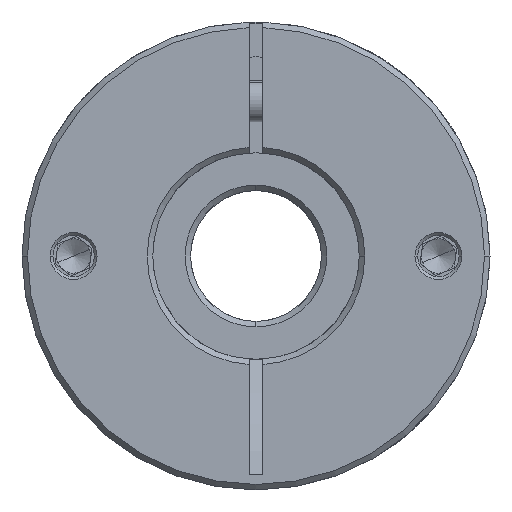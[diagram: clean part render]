
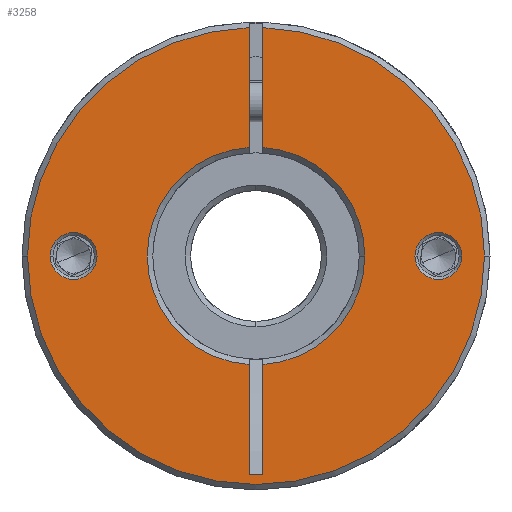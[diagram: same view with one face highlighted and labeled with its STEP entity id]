
A CAD part, front view. The second image highlights one B-rep face of the part: STEP entity #3258.
In plain terms, the highlighted planar face has unit normal (0, -1, 0).
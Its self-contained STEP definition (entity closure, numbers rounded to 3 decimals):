
#16 = AXIS2_PLACEMENT_3D ( 'NONE', #1711, #11973, #7759 ) ;
#41 = ORIENTED_EDGE ( 'NONE', *, *, #5862, .T. ) ;
#83 = EDGE_CURVE ( 'NONE', #6338, #11310, #12786, .T. ) ;
#114 = AXIS2_PLACEMENT_3D ( 'NONE', #4484, #5880, #3691 ) ;
#185 = CIRCLE ( 'NONE', #2933, 3.4 ) ;
#213 = CARTESIAN_POINT ( 'NONE',  ( -2.735, -47.045, 68. ) ) ;
#278 = EDGE_LOOP ( 'NONE', ( #11483, #12806 ) ) ;
#340 = ORIENTED_EDGE ( 'NONE', *, *, #8898, .T. ) ;
#352 = DIRECTION ( 'NONE',  ( 0., 0., -1. ) ) ;
#494 = CARTESIAN_POINT ( 'NONE',  ( -35.935, -47.045, 68. ) ) ;
#611 = CIRCLE ( 'NONE', #8713, 3.4 ) ;
#612 = AXIS2_PLACEMENT_3D ( 'NONE', #1942, #1901, #13297 ) ;
#804 = EDGE_CURVE ( 'NONE', #12910, #4711, #8012, .T. ) ;
#1147 = CARTESIAN_POINT ( 'NONE',  ( -2.735, -47.045, 68. ) ) ;
#1181 = CARTESIAN_POINT ( 'NONE',  ( 27.165, -47.045, 68. ) ) ;
#1374 = DIRECTION ( 'NONE',  ( 1., 0., 0. ) ) ;
#1536 = DIRECTION ( 'NONE',  ( 0., 0., -1. ) ) ;
#1584 = CARTESIAN_POINT ( 'NONE',  ( -1.735, -47.045, 68. ) ) ;
#1619 = EDGE_CURVE ( 'NONE', #9731, #6338, #4406, .T. ) ;
#1656 = VERTEX_POINT ( 'NONE', #12190 ) ;
#1697 = CIRCLE ( 'NONE', #4105, 3.4 ) ;
#1711 = CARTESIAN_POINT ( 'NONE',  ( -2.735, -47.045, 68. ) ) ;
#1736 = EDGE_CURVE ( 'NONE', #1656, #6916, #12700, .T. ) ;
#1893 = CARTESIAN_POINT ( 'NONE',  ( -1.735, -47.045, 52.232 ) ) ;
#1901 = DIRECTION ( 'NONE',  ( 0., -1., 0. ) ) ;
#1942 = CARTESIAN_POINT ( 'NONE',  ( -2.735, -47.045, 68. ) ) ;
#1943 = ORIENTED_EDGE ( 'NONE', *, *, #7412, .T. ) ;
#2004 = DIRECTION ( 'NONE',  ( 1., 0., 0. ) ) ;
#2029 = ORIENTED_EDGE ( 'NONE', *, *, #2272, .T. ) ;
#2203 = DIRECTION ( 'NONE',  ( 1., 0., 0. ) ) ;
#2272 = EDGE_CURVE ( 'NONE', #5878, #5822, #611, .T. ) ;
#2612 = EDGE_LOOP ( 'NONE', ( #2029, #9246 ) ) ;
#2669 = VECTOR ( 'NONE', #2738, 1000. ) ;
#2738 = DIRECTION ( 'NONE',  ( -1., 0., 0. ) ) ;
#2933 = AXIS2_PLACEMENT_3D ( 'NONE', #7355, #11639, #5502 ) ;
#2996 = EDGE_CURVE ( 'NONE', #10141, #13171, #10788, .T. ) ;
#3258 = ADVANCED_FACE ( 'NONE', ( #5102, #10940, #13392 ), #13090, .T. ) ;
#3419 = CARTESIAN_POINT ( 'NONE',  ( -3.735, -47.045, 68. ) ) ;
#3461 = EDGE_CURVE ( 'NONE', #11857, #6916, #5942, .T. ) ;
#3691 = DIRECTION ( 'NONE',  ( 1., 0., 0. ) ) ;
#3995 = AXIS2_PLACEMENT_3D ( 'NONE', #13396, #8229, #2004 ) ;
#4101 = ORIENTED_EDGE ( 'NONE', *, *, #3461, .F. ) ;
#4105 = AXIS2_PLACEMENT_3D ( 'NONE', #4670, #11954, #9810 ) ;
#4406 = CIRCLE ( 'NONE', #612, 33.2 ) ;
#4484 = CARTESIAN_POINT ( 'NONE',  ( -2.735, -47.045, 68. ) ) ;
#4487 = VERTEX_POINT ( 'NONE', #7708 ) ;
#4504 = AXIS2_PLACEMENT_3D ( 'NONE', #11547, #11723, #5372 ) ;
#4670 = CARTESIAN_POINT ( 'NONE',  ( 23.765, -47.045, 68. ) ) ;
#4711 = VERTEX_POINT ( 'NONE', #7796 ) ;
#4786 = ORIENTED_EDGE ( 'NONE', *, *, #10996, .F. ) ;
#4891 = AXIS2_PLACEMENT_3D ( 'NONE', #11043, #4912, #11997 ) ;
#4912 = DIRECTION ( 'NONE',  ( 0., -1., 0. ) ) ;
#4988 = LINE ( 'NONE', #8705, #9848 ) ;
#5062 = ORIENTED_EDGE ( 'NONE', *, *, #11983, .T. ) ;
#5102 = FACE_BOUND ( 'NONE', #2612, .T. ) ;
#5372 = DIRECTION ( 'NONE',  ( 1., 0., 0. ) ) ;
#5502 = DIRECTION ( 'NONE',  ( 1., 0., 0. ) ) ;
#5551 = CIRCLE ( 'NONE', #4504, 15.8 ) ;
#5671 = VECTOR ( 'NONE', #10188, 1000. ) ;
#5677 = DIRECTION ( 'NONE',  ( 0., 1., 0. ) ) ;
#5822 = VERTEX_POINT ( 'NONE', #12458 ) ;
#5862 = EDGE_CURVE ( 'NONE', #13171, #9806, #5551, .T. ) ;
#5878 = VERTEX_POINT ( 'NONE', #1181 ) ;
#5880 = DIRECTION ( 'NONE',  ( 0., 1., 0. ) ) ;
#5911 = EDGE_CURVE ( 'NONE', #4711, #12910, #185, .T. ) ;
#5942 = LINE ( 'NONE', #3419, #9176 ) ;
#6267 = LINE ( 'NONE', #11996, #2669 ) ;
#6338 = VERTEX_POINT ( 'NONE', #11523 ) ;
#6579 = CARTESIAN_POINT ( 'NONE',  ( -1.735, -47.045, 101.185 ) ) ;
#6916 = VERTEX_POINT ( 'NONE', #12721 ) ;
#7355 = CARTESIAN_POINT ( 'NONE',  ( -29.235, -47.045, 68. ) ) ;
#7412 = EDGE_CURVE ( 'NONE', #11310, #10141, #12976, .T. ) ;
#7708 = CARTESIAN_POINT ( 'NONE',  ( -3.735, -47.045, 36.279 ) ) ;
#7759 = DIRECTION ( 'NONE',  ( 1., 0., 0. ) ) ;
#7796 = CARTESIAN_POINT ( 'NONE',  ( -32.635, -47.045, 68. ) ) ;
#7823 = CARTESIAN_POINT ( 'NONE',  ( -3.735, -47.045, 68. ) ) ;
#7838 = EDGE_CURVE ( 'NONE', #9806, #10134, #4988, .T. ) ;
#8012 = CIRCLE ( 'NONE', #3995, 3.4 ) ;
#8229 = DIRECTION ( 'NONE',  ( 0., 1., 0. ) ) ;
#8270 = ORIENTED_EDGE ( 'NONE', *, *, #7838, .T. ) ;
#8512 = EDGE_CURVE ( 'NONE', #5822, #5878, #1697, .T. ) ;
#8705 = CARTESIAN_POINT ( 'NONE',  ( -1.735, -47.045, 68. ) ) ;
#8713 = AXIS2_PLACEMENT_3D ( 'NONE', #10815, #5677, #1374 ) ;
#8898 = EDGE_CURVE ( 'NONE', #11857, #9731, #12320, .T. ) ;
#9090 = DIRECTION ( 'NONE',  ( 0., 0., -1. ) ) ;
#9176 = VECTOR ( 'NONE', #352, 1000. ) ;
#9246 = ORIENTED_EDGE ( 'NONE', *, *, #8512, .T. ) ;
#9560 = ORIENTED_EDGE ( 'NONE', *, *, #1736, .T. ) ;
#9731 = VERTEX_POINT ( 'NONE', #494 ) ;
#9739 = AXIS2_PLACEMENT_3D ( 'NONE', #1147, #11515, #2203 ) ;
#9769 = CARTESIAN_POINT ( 'NONE',  ( 13.065, -47.045, 68. ) ) ;
#9806 = VERTEX_POINT ( 'NONE', #1893 ) ;
#9810 = DIRECTION ( 'NONE',  ( 1., 0., 0. ) ) ;
#9848 = VECTOR ( 'NONE', #1536, 1000. ) ;
#10134 = VERTEX_POINT ( 'NONE', #12688 ) ;
#10141 = VERTEX_POINT ( 'NONE', #12648 ) ;
#10188 = DIRECTION ( 'NONE',  ( 0., 0., -1. ) ) ;
#10290 = EDGE_LOOP ( 'NONE', ( #4101, #340, #12941, #11944, #1943, #12187, #41, #8270, #5062, #4786, #9560 ) ) ;
#10652 = VECTOR ( 'NONE', #9090, 1000. ) ;
#10788 = CIRCLE ( 'NONE', #11868, 15.8 ) ;
#10815 = CARTESIAN_POINT ( 'NONE',  ( 23.765, -47.045, 68. ) ) ;
#10940 = FACE_BOUND ( 'NONE', #278, .T. ) ;
#10996 = EDGE_CURVE ( 'NONE', #1656, #4487, #11793, .T. ) ;
#11043 = CARTESIAN_POINT ( 'NONE',  ( -2.735, -47.045, 68. ) ) ;
#11310 = VERTEX_POINT ( 'NONE', #6579 ) ;
#11483 = ORIENTED_EDGE ( 'NONE', *, *, #804, .T. ) ;
#11515 = DIRECTION ( 'NONE',  ( 0., -1., 0. ) ) ;
#11523 = CARTESIAN_POINT ( 'NONE',  ( 30.465, -47.045, 68. ) ) ;
#11547 = CARTESIAN_POINT ( 'NONE',  ( -2.735, -47.045, 68. ) ) ;
#11614 = DIRECTION ( 'NONE',  ( 0., 1., 0. ) ) ;
#11639 = DIRECTION ( 'NONE',  ( 0., 1., 0. ) ) ;
#11723 = DIRECTION ( 'NONE',  ( 0., 1., 0. ) ) ;
#11744 = DIRECTION ( 'NONE',  ( 1., 0., 0. ) ) ;
#11793 = LINE ( 'NONE', #7823, #10652 ) ;
#11796 = CARTESIAN_POINT ( 'NONE',  ( -3.735, -47.045, 101.185 ) ) ;
#11857 = VERTEX_POINT ( 'NONE', #11796 ) ;
#11868 = AXIS2_PLACEMENT_3D ( 'NONE', #213, #11614, #11744 ) ;
#11944 = ORIENTED_EDGE ( 'NONE', *, *, #83, .T. ) ;
#11954 = DIRECTION ( 'NONE',  ( 0., 1., 0. ) ) ;
#11973 = DIRECTION ( 'NONE',  ( 0., -1., 0. ) ) ;
#11983 = EDGE_CURVE ( 'NONE', #10134, #4487, #6267, .T. ) ;
#11996 = CARTESIAN_POINT ( 'NONE',  ( -3.735, -47.045, 36.279 ) ) ;
#11997 = DIRECTION ( 'NONE',  ( 1., 0., 0. ) ) ;
#12187 = ORIENTED_EDGE ( 'NONE', *, *, #2996, .T. ) ;
#12190 = CARTESIAN_POINT ( 'NONE',  ( -3.735, -47.045, 52.232 ) ) ;
#12320 = CIRCLE ( 'NONE', #9739, 33.2 ) ;
#12458 = CARTESIAN_POINT ( 'NONE',  ( 20.365, -47.045, 68. ) ) ;
#12520 = CARTESIAN_POINT ( 'NONE',  ( -25.835, -47.045, 68. ) ) ;
#12648 = CARTESIAN_POINT ( 'NONE',  ( -1.735, -47.045, 83.768 ) ) ;
#12688 = CARTESIAN_POINT ( 'NONE',  ( -1.735, -47.045, 36.279 ) ) ;
#12700 = CIRCLE ( 'NONE', #114, 15.8 ) ;
#12721 = CARTESIAN_POINT ( 'NONE',  ( -3.735, -47.045, 83.768 ) ) ;
#12786 = CIRCLE ( 'NONE', #16, 33.2 ) ;
#12806 = ORIENTED_EDGE ( 'NONE', *, *, #5911, .T. ) ;
#12910 = VERTEX_POINT ( 'NONE', #12520 ) ;
#12941 = ORIENTED_EDGE ( 'NONE', *, *, #1619, .T. ) ;
#12976 = LINE ( 'NONE', #1584, #5671 ) ;
#13090 = PLANE ( 'NONE',  #4891 ) ;
#13171 = VERTEX_POINT ( 'NONE', #9769 ) ;
#13297 = DIRECTION ( 'NONE',  ( 1., 0., 0. ) ) ;
#13392 = FACE_OUTER_BOUND ( 'NONE', #10290, .T. ) ;
#13396 = CARTESIAN_POINT ( 'NONE',  ( -29.235, -47.045, 68. ) ) ;
